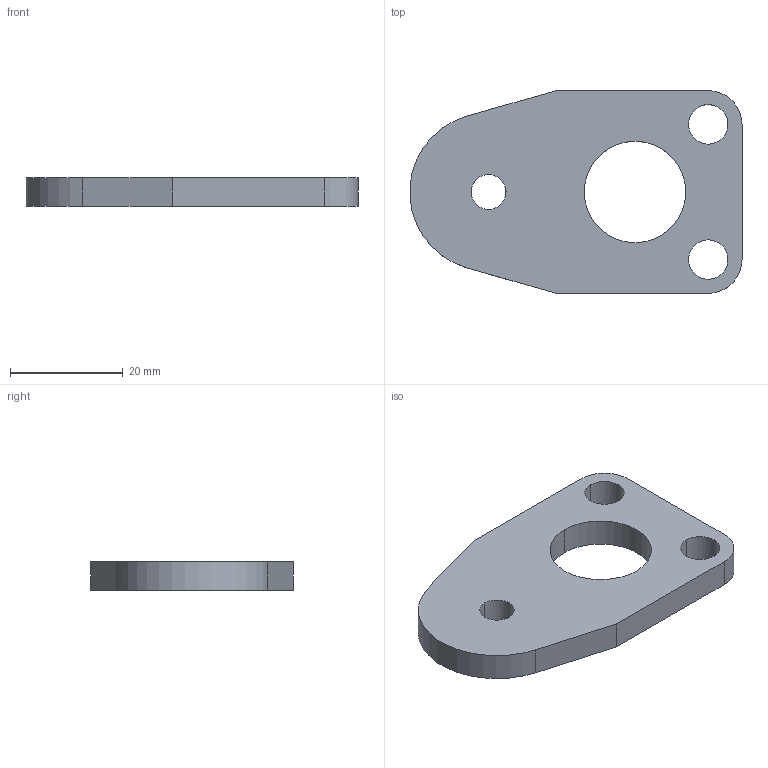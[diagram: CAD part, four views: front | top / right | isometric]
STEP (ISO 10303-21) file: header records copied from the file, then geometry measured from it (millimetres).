
FILE_DESCRIPTION(/* description */ (''),/* implementation_level */ '2;1');
FILE_NAME(/* name */ '3d_bpst16_03442_r00.stp',/* time_stamp */ '2011-01-10T14:17:08+09:00',/* author */ ('MISUMI'),/* organization */ (''),/* preprocessor_version */ 'ST-DEVELOPER v11',/* originating_system */ 'UGS - NX 5.0',/* authorisation */ '');
FILE_SCHEMA (('CONFIG_CONTROL_DESIGN'));
Length unit declared in the file: millimetre
Products named in the file (1): 3d_bpst16_03442_r00
Bounding box: 58.95 x 36 x 5 mm (x, y, z)
Volume: 7555.1 mm3; surface area: 4452.1 mm2
Topology: 1 solids, 1 shells, 18 faces, 48 edges, 32 vertices
Faces by surface type: cylinder 11, plane 7
Entity records: 676 total; most frequent: DIRECTION 108, CARTESIAN_POINT 99, ORIENTED_EDGE 96, EDGE_CURVE 48, AXIS2_PLACEMENT_3D 41, VERTEX_POINT 32, EDGE_LOOP 26, LINE 26
